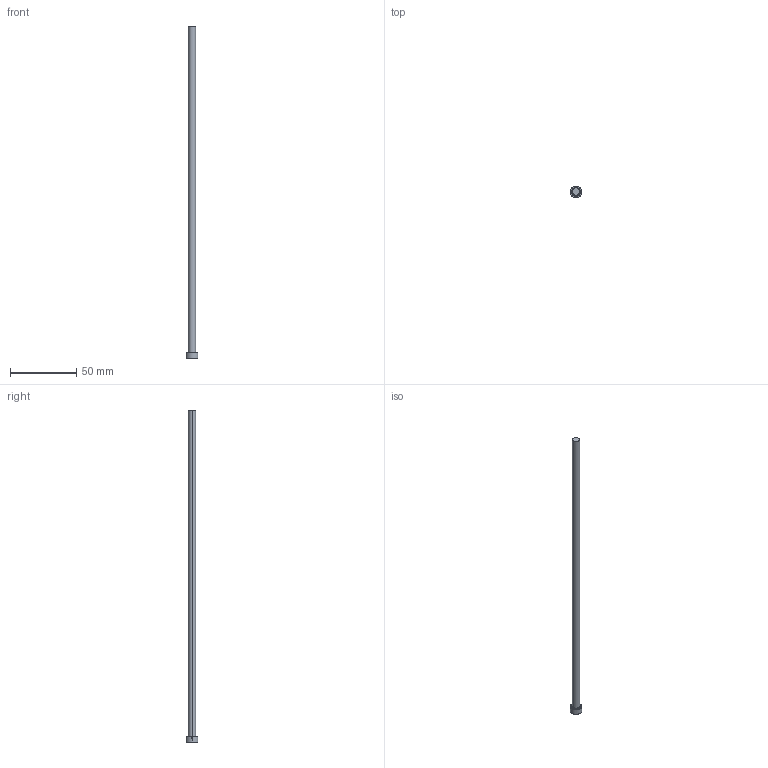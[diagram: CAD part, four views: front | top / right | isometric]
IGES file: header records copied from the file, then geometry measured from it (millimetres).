
Start section: SolidWorks IGES file using analytic representation for surfaces
Global section: file name: D:\Current\W1-2\EPHE-B\EPHE-B5.5-250.igs; native system: SolidWorks 2017; preprocessor: SolidWorks 2017; author: Ravi Kalvai; date: 240411.172838; units: millimetre
Bounding box: 9 x 9 x 250 mm (x, y, z)
Surface area: 4487.3 mm2 (no closed solid volume)
Topology: 0 solids, 0 shells, 9 faces, 152 edges, 152 vertices
Faces by surface type: bspline 5, revolution 4
